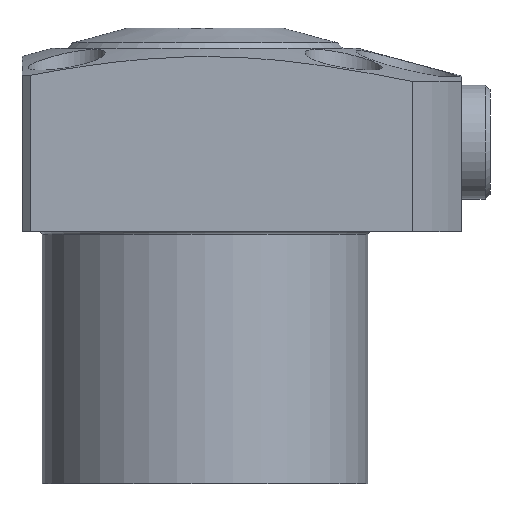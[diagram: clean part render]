
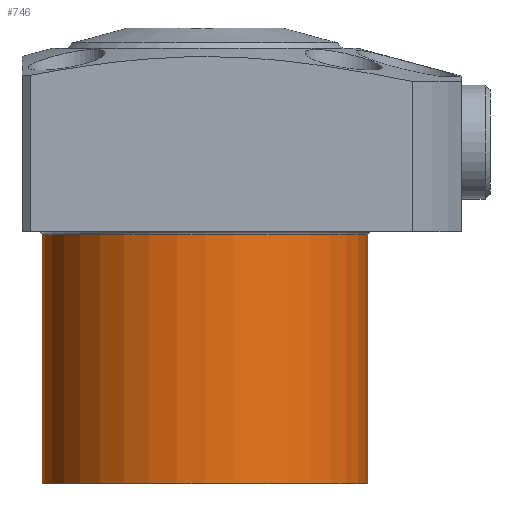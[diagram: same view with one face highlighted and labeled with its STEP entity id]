
A CAD part, front view. The second image highlights one B-rep face of the part: STEP entity #746.
In plain terms, the highlighted cylindrical face has radius 20 mm (diameter 40 mm), a partial arc.
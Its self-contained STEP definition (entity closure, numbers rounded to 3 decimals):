
#487=CYLINDRICAL_SURFACE('',#3098,20.);
#746=ADVANCED_FACE('',(#940),#487,.T.);
#940=FACE_OUTER_BOUND('',#1112,.T.);
#1112=EDGE_LOOP('',(#1983,#1984,#1985,#1986));
#1236=LINE('',#4353,#1383);
#1237=LINE('',#4355,#1384);
#1383=VECTOR('',#3421,1.);
#1384=VECTOR('',#3424,1.);
#1983=ORIENTED_EDGE('',*,*,#2457,.F.);
#1984=ORIENTED_EDGE('',*,*,#2637,.T.);
#1985=ORIENTED_EDGE('',*,*,#2459,.T.);
#1986=ORIENTED_EDGE('',*,*,#2391,.T.);
#2165=VERTEX_POINT('',#4099);
#2166=VERTEX_POINT('',#4101);
#2228=VERTEX_POINT('',#4351);
#2229=VERTEX_POINT('',#4352);
#2391=EDGE_CURVE('',#2166,#2165,#2679,.T.);
#2457=EDGE_CURVE('',#2229,#2165,#1236,.T.);
#2459=EDGE_CURVE('',#2228,#2166,#1237,.T.);
#2637=EDGE_CURVE('',#2229,#2228,#2808,.T.);
#2679=CIRCLE('',#2876,20.);
#2808=CIRCLE('',#3096,20.);
#2876=AXIS2_PLACEMENT_3D('',#4100,#3300,#3301);
#3096=AXIS2_PLACEMENT_3D('',#4830,#3835,#3836);
#3098=AXIS2_PLACEMENT_3D('',#4832,#3839,#3840);
#3300=DIRECTION('',(0.,0.,-1.));
#3301=DIRECTION('',(1.,0.,0.));
#3421=DIRECTION('',(0.,0.,1.));
#3424=DIRECTION('',(0.,0.,1.));
#3835=DIRECTION('',(0.,0.,1.));
#3836=DIRECTION('',(1.,0.,0.));
#3839=DIRECTION('',(0.,0.,1.));
#3840=DIRECTION('',(-1.,0.,0.));
#4099=CARTESIAN_POINT('',(-20.,0.,-0.4));
#4100=CARTESIAN_POINT('',(0.,0.,-0.4));
#4101=CARTESIAN_POINT('',(20.,0.,-0.4));
#4351=CARTESIAN_POINT('',(20.,0.,-31.));
#4352=CARTESIAN_POINT('',(-20.,0.,-31.));
#4353=CARTESIAN_POINT('',(-20.,0.,30.));
#4355=CARTESIAN_POINT('',(20.,0.,30.));
#4830=CARTESIAN_POINT('',(0.,0.,-31.));
#4832=CARTESIAN_POINT('',(0.,0.,30.));
